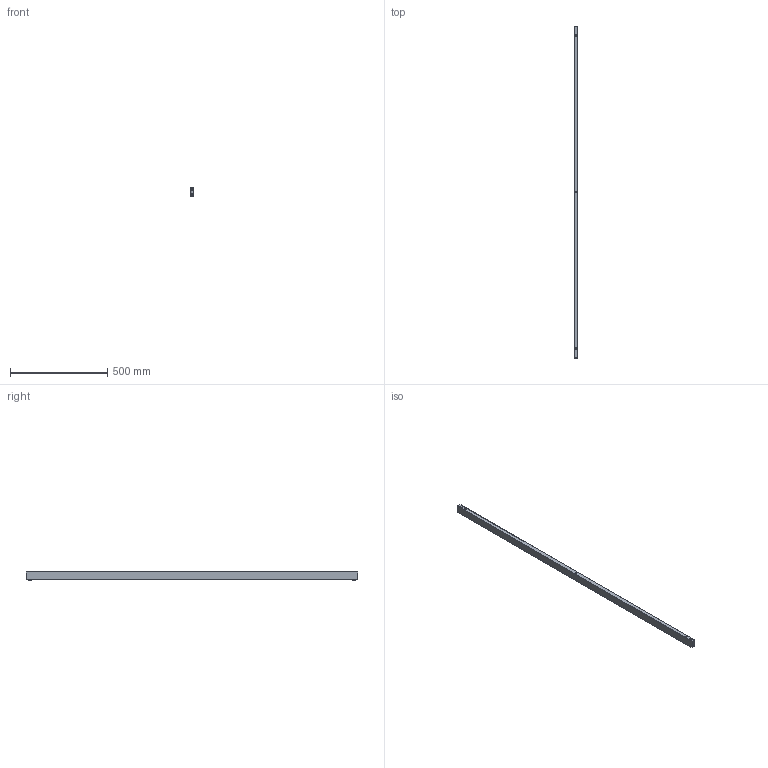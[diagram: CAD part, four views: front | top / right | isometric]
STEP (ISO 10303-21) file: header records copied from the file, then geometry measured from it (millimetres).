
FILE_DESCRIPTION( ( 'STEP AP214' ), '1' );
FILE_NAME( 'D:/Yug/2021/Delta/desk_and_office_organisation/QC/46015.stp', '2021-01-22T12:16:31', ( '' ), ( '' ), ' ', 'PARTsolutions', ' ' );
FILE_SCHEMA( ( 'AUTOMOTIVE_DESIGN { 1 0 10303 214 1 1 1 1 }' ) );
Length unit declared in the file: millimetre
Products named in the file (1): _46015
Bounding box: 20 x 1710 x 41.5 mm (x, y, z)
Volume: 301028.6 mm3; surface area: 392946 mm2
Topology: 1 solids, 1 shells, 33 faces, 98 edges, 69 vertices
Faces by surface type: cylinder 21, plane 12
Full cylindrical faces by diameter (mm): 8 x4, 8.3 x5, 9 x8, 12.5 x2, 14.5 x2
Entity records: 1826 total; most frequent: CARTESIAN_POINT 710, DIRECTION 160, ORIENTED_EDGE 132, EDGE_LOOP 96, AXIS2_PLACEMENT_3D 68, EDGE_CURVE 66, VERTEX_POINT 58, FACE_OUTER_BOUND 54
